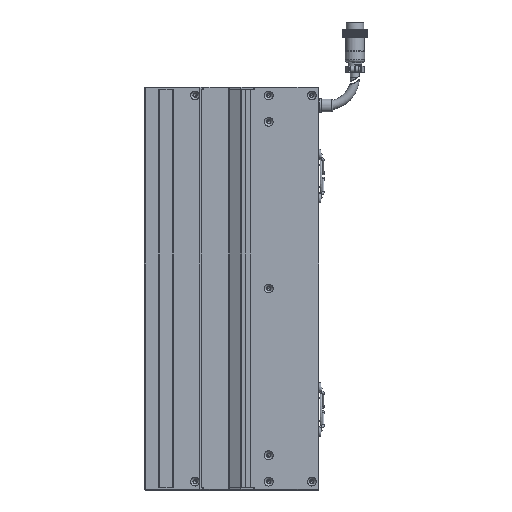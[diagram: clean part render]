
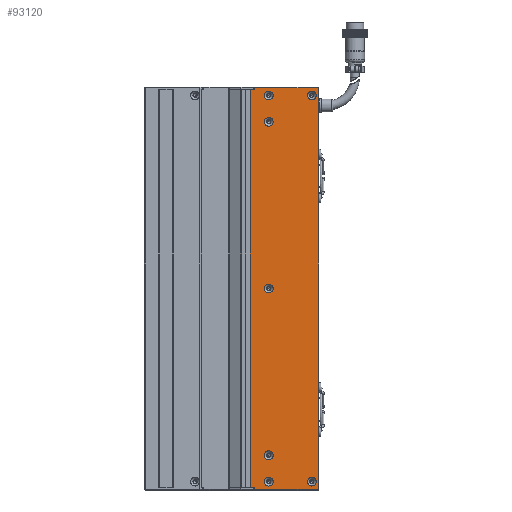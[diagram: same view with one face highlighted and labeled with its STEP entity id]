
A CAD part, left-side view. The second image highlights one B-rep face of the part: STEP entity #93120.
In plain terms, the highlighted planar face has unit normal (-1, 0, 0).
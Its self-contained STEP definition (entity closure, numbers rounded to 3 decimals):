
#590 = CARTESIAN_POINT ( 'NONE',  ( -24.998, -23.25, -143. ) ) ;
#3454 = LINE ( 'NONE', #68745, #119728 ) ;
#5493 = ORIENTED_EDGE ( 'NONE', *, *, #55331, .F. ) ;
#5519 = CARTESIAN_POINT ( 'NONE',  ( -24.998, -72.5, 143. ) ) ;
#6023 = EDGE_LOOP ( 'NONE', ( #5493 ) ) ;
#6570 = DIRECTION ( 'NONE',  ( 0., 1., 0. ) ) ;
#7441 = EDGE_CURVE ( 'NONE', #62068, #62068, #33387, .T. ) ;
#8410 = CARTESIAN_POINT ( 'NONE',  ( -24.998, -36.5, -135.85 ) ) ;
#9506 = ORIENTED_EDGE ( 'NONE', *, *, #49504, .T. ) ;
#9832 = VERTEX_POINT ( 'NONE', #23177 ) ;
#10537 = VERTEX_POINT ( 'NONE', #63252 ) ;
#11260 = FACE_BOUND ( 'NONE', #12482, .T. ) ;
#11524 = VERTEX_POINT ( 'NONE', #95057 ) ;
#11642 = AXIS2_PLACEMENT_3D ( 'NONE', #75362, #83709, #46219 ) ;
#12052 = DIRECTION ( 'NONE',  ( 0., -1., 0. ) ) ;
#12219 = ORIENTED_EDGE ( 'NONE', *, *, #97660, .F. ) ;
#12482 = EDGE_LOOP ( 'NONE', ( #117691 ) ) ;
#13306 = VECTOR ( 'NONE', #6570, 1000. ) ;
#13690 = DIRECTION ( 'NONE',  ( -1., 0., 0. ) ) ;
#16596 = EDGE_CURVE ( 'NONE', #78470, #60190, #23246, .T. ) ;
#18847 = CARTESIAN_POINT ( 'NONE',  ( -24.998, -36.5, 123.15 ) ) ;
#20972 = VERTEX_POINT ( 'NONE', #590 ) ;
#20986 = CIRCLE ( 'NONE', #26974, 3.15 ) ;
#21779 = VERTEX_POINT ( 'NONE', #113410 ) ;
#22313 = EDGE_CURVE ( 'NONE', #20972, #40866, #103111, .T. ) ;
#23177 = CARTESIAN_POINT ( 'NONE',  ( -24.998, -72., 144.5 ) ) ;
#23246 = LINE ( 'NONE', #95729, #27673 ) ;
#24339 = EDGE_CURVE ( 'NONE', #9832, #55828, #122252, .T. ) ;
#24729 = PLANE ( 'NONE',  #24807 ) ;
#24807 = AXIS2_PLACEMENT_3D ( 'NONE', #5519, #82275, #122035 ) ;
#24816 = FACE_BOUND ( 'NONE', #112776, .T. ) ;
#25073 = ORIENTED_EDGE ( 'NONE', *, *, #41105, .F. ) ;
#26648 = CIRCLE ( 'NONE', #111079, 3.15 ) ;
#26700 = CARTESIAN_POINT ( 'NONE',  ( -24.998, -36.5, 139. ) ) ;
#26974 = AXIS2_PLACEMENT_3D ( 'NONE', #102637, #55983, #122213 ) ;
#27200 = CARTESIAN_POINT ( 'NONE',  ( -24.998, -36.5, -116.85 ) ) ;
#27673 = VECTOR ( 'NONE', #94097, 1000. ) ;
#27731 = CARTESIAN_POINT ( 'NONE',  ( -24.998, -23.25, -143. ) ) ;
#27808 = FACE_BOUND ( 'NONE', #6023, .T. ) ;
#28677 = EDGE_CURVE ( 'NONE', #115773, #115773, #50462, .T. ) ;
#28812 = DIRECTION ( 'NONE',  ( 0., 0., 1. ) ) ;
#29137 = FACE_OUTER_BOUND ( 'NONE', #106562, .T. ) ;
#29469 = VECTOR ( 'NONE', #85999, 1000. ) ;
#29847 = CARTESIAN_POINT ( 'NONE',  ( -24.998, -67.5, 139. ) ) ;
#30916 = FACE_BOUND ( 'NONE', #57159, .T. ) ;
#31431 = ORIENTED_EDGE ( 'NONE', *, *, #16596, .F. ) ;
#32503 = DIRECTION ( 'NONE',  ( 0., 0., 1. ) ) ;
#33267 = EDGE_CURVE ( 'NONE', #105367, #105367, #97686, .T. ) ;
#33387 = CIRCLE ( 'NONE', #11642, 3.15 ) ;
#34149 = DIRECTION ( 'NONE',  ( 0., 0., 1. ) ) ;
#35985 = CARTESIAN_POINT ( 'NONE',  ( -24.998, -67.5, -135.85 ) ) ;
#38512 = CARTESIAN_POINT ( 'NONE',  ( -24.998, -72.5, -144.5 ) ) ;
#38793 = EDGE_LOOP ( 'NONE', ( #25073 ) ) ;
#39418 = DIRECTION ( 'NONE',  ( 0., 0., 1. ) ) ;
#40588 = ORIENTED_EDGE ( 'NONE', *, *, #28677, .F. ) ;
#40866 = VERTEX_POINT ( 'NONE', #52838 ) ;
#41094 = CARTESIAN_POINT ( 'NONE',  ( -24.998, -26.5, 144.5 ) ) ;
#41105 = EDGE_CURVE ( 'NONE', #11524, #11524, #26648, .T. ) ;
#42029 = CARTESIAN_POINT ( 'NONE',  ( -24.998, -72.5, -143. ) ) ;
#43310 = CARTESIAN_POINT ( 'NONE',  ( -24.998, -72.5, 144.5 ) ) ;
#46219 = DIRECTION ( 'NONE',  ( 0., 0., 1. ) ) ;
#47958 = CARTESIAN_POINT ( 'NONE',  ( -24.998, -26.5, -143. ) ) ;
#48812 = CARTESIAN_POINT ( 'NONE',  ( -24.998, -72., 143. ) ) ;
#49180 = CARTESIAN_POINT ( 'NONE',  ( -24.998, -26.5, 136. ) ) ;
#49504 = EDGE_CURVE ( 'NONE', #116237, #9832, #112061, .T. ) ;
#50462 = CIRCLE ( 'NONE', #73662, 3.15 ) ;
#50948 = EDGE_CURVE ( 'NONE', #100966, #100966, #20986, .T. ) ;
#52838 = CARTESIAN_POINT ( 'NONE',  ( -24.998, -23.25, 143. ) ) ;
#53297 = AXIS2_PLACEMENT_3D ( 'NONE', #89913, #13690, #34149 ) ;
#55331 = EDGE_CURVE ( 'NONE', #114330, #114330, #96839, .T. ) ;
#55828 = VERTEX_POINT ( 'NONE', #41094 ) ;
#55983 = DIRECTION ( 'NONE',  ( -1., 0., 0. ) ) ;
#56136 = ORIENTED_EDGE ( 'NONE', *, *, #81977, .T. ) ;
#57159 = EDGE_LOOP ( 'NONE', ( #40588 ) ) ;
#57419 = AXIS2_PLACEMENT_3D ( 'NONE', #95122, #115531, #76004 ) ;
#58002 = EDGE_LOOP ( 'NONE', ( #100604 ) ) ;
#60190 = VERTEX_POINT ( 'NONE', #47958 ) ;
#61106 = EDGE_CURVE ( 'NONE', #21779, #21779, #76773, .T. ) ;
#62068 = VERTEX_POINT ( 'NONE', #35985 ) ;
#63252 = CARTESIAN_POINT ( 'NONE',  ( -24.998, -26.5, 143. ) ) ;
#68745 = CARTESIAN_POINT ( 'NONE',  ( -24.998, -72.5, 143. ) ) ;
#69957 = VECTOR ( 'NONE', #98234, 1000. ) ;
#69986 = DIRECTION ( 'NONE',  ( 0., -1., 0. ) ) ;
#70379 = CARTESIAN_POINT ( 'NONE',  ( -24.998, -36.5, 120. ) ) ;
#72679 = ORIENTED_EDGE ( 'NONE', *, *, #74831, .F. ) ;
#73662 = AXIS2_PLACEMENT_3D ( 'NONE', #26700, #93348, #102924 ) ;
#74389 = DIRECTION ( 'NONE',  ( 0., 0., 1. ) ) ;
#74397 = LINE ( 'NONE', #49180, #69957 ) ;
#74775 = VECTOR ( 'NONE', #74389, 1000. ) ;
#74831 = EDGE_CURVE ( 'NONE', #40866, #10537, #3454, .T. ) ;
#75362 = CARTESIAN_POINT ( 'NONE',  ( -24.998, -67.5, -139. ) ) ;
#76004 = DIRECTION ( 'NONE',  ( 0., 0., 1. ) ) ;
#76107 = ORIENTED_EDGE ( 'NONE', *, *, #22313, .F. ) ;
#76773 = CIRCLE ( 'NONE', #57419, 3.15 ) ;
#77806 = EDGE_LOOP ( 'NONE', ( #84665 ) ) ;
#78470 = VERTEX_POINT ( 'NONE', #97786 ) ;
#79969 = DIRECTION ( 'NONE',  ( -1., 0., 0. ) ) ;
#81977 = EDGE_CURVE ( 'NONE', #20972, #60190, #102847, .T. ) ;
#82275 = DIRECTION ( 'NONE',  ( 1., 0., 0. ) ) ;
#83709 = DIRECTION ( 'NONE',  ( -1., 0., 0. ) ) ;
#84665 = ORIENTED_EDGE ( 'NONE', *, *, #7441, .F. ) ;
#85999 = DIRECTION ( 'NONE',  ( 0., 1., 0. ) ) ;
#87422 = FACE_BOUND ( 'NONE', #77806, .T. ) ;
#89681 = ORIENTED_EDGE ( 'NONE', *, *, #95470, .T. ) ;
#89689 = VECTOR ( 'NONE', #28812, 1000. ) ;
#89913 = CARTESIAN_POINT ( 'NONE',  ( -24.998, -36.5, -120. ) ) ;
#93120 = ADVANCED_FACE ( 'NONE', ( #87422, #24816, #120445, #30916, #27808, #11260, #121650, #29137 ), #24729, .F. ) ;
#93348 = DIRECTION ( 'NONE',  ( -1., 0., 0. ) ) ;
#94097 = DIRECTION ( 'NONE',  ( 0., 0., 1. ) ) ;
#95057 = CARTESIAN_POINT ( 'NONE',  ( -24.998, -67.5, 142.15 ) ) ;
#95122 = CARTESIAN_POINT ( 'NONE',  ( -24.998, -36.5, 0. ) ) ;
#95470 = EDGE_CURVE ( 'NONE', #55828, #10537, #74397, .T. ) ;
#95729 = CARTESIAN_POINT ( 'NONE',  ( -24.998, -26.5, -136. ) ) ;
#96456 = DIRECTION ( 'NONE',  ( -1., 0., 0. ) ) ;
#96839 = CIRCLE ( 'NONE', #98328, 3.15 ) ;
#97660 = EDGE_CURVE ( 'NONE', #116237, #78470, #108440, .T. ) ;
#97686 = CIRCLE ( 'NONE', #53297, 3.15 ) ;
#97786 = CARTESIAN_POINT ( 'NONE',  ( -24.998, -26.5, -144.5 ) ) ;
#98234 = DIRECTION ( 'NONE',  ( 0., 0., -1. ) ) ;
#98328 = AXIS2_PLACEMENT_3D ( 'NONE', #70379, #79969, #32503 ) ;
#100604 = ORIENTED_EDGE ( 'NONE', *, *, #61106, .F. ) ;
#100966 = VERTEX_POINT ( 'NONE', #8410 ) ;
#102637 = CARTESIAN_POINT ( 'NONE',  ( -24.998, -36.5, -139. ) ) ;
#102847 = LINE ( 'NONE', #42029, #116242 ) ;
#102924 = DIRECTION ( 'NONE',  ( 0., 0., 1. ) ) ;
#103111 = LINE ( 'NONE', #27731, #74775 ) ;
#105367 = VERTEX_POINT ( 'NONE', #27200 ) ;
#106170 = ORIENTED_EDGE ( 'NONE', *, *, #50948, .F. ) ;
#106562 = EDGE_LOOP ( 'NONE', ( #56136, #31431, #12219, #9506, #114396, #89681, #72679, #76107 ) ) ;
#108440 = LINE ( 'NONE', #38512, #29469 ) ;
#111079 = AXIS2_PLACEMENT_3D ( 'NONE', #29847, #96456, #39418 ) ;
#112061 = LINE ( 'NONE', #48812, #89689 ) ;
#112593 = CARTESIAN_POINT ( 'NONE',  ( -24.998, -36.5, 142.15 ) ) ;
#112776 = EDGE_LOOP ( 'NONE', ( #106170 ) ) ;
#113410 = CARTESIAN_POINT ( 'NONE',  ( -24.998, -36.5, 3.15 ) ) ;
#114330 = VERTEX_POINT ( 'NONE', #18847 ) ;
#114396 = ORIENTED_EDGE ( 'NONE', *, *, #24339, .T. ) ;
#115531 = DIRECTION ( 'NONE',  ( -1., 0., 0. ) ) ;
#115773 = VERTEX_POINT ( 'NONE', #112593 ) ;
#116237 = VERTEX_POINT ( 'NONE', #120125 ) ;
#116242 = VECTOR ( 'NONE', #12052, 1000. ) ;
#117691 = ORIENTED_EDGE ( 'NONE', *, *, #33267, .F. ) ;
#119728 = VECTOR ( 'NONE', #69986, 1000. ) ;
#120125 = CARTESIAN_POINT ( 'NONE',  ( -24.998, -72., -144.5 ) ) ;
#120445 = FACE_BOUND ( 'NONE', #38793, .T. ) ;
#121650 = FACE_BOUND ( 'NONE', #58002, .T. ) ;
#122035 = DIRECTION ( 'NONE',  ( 0., 0., -1. ) ) ;
#122213 = DIRECTION ( 'NONE',  ( 0., 0., 1. ) ) ;
#122252 = LINE ( 'NONE', #43310, #13306 ) ;
